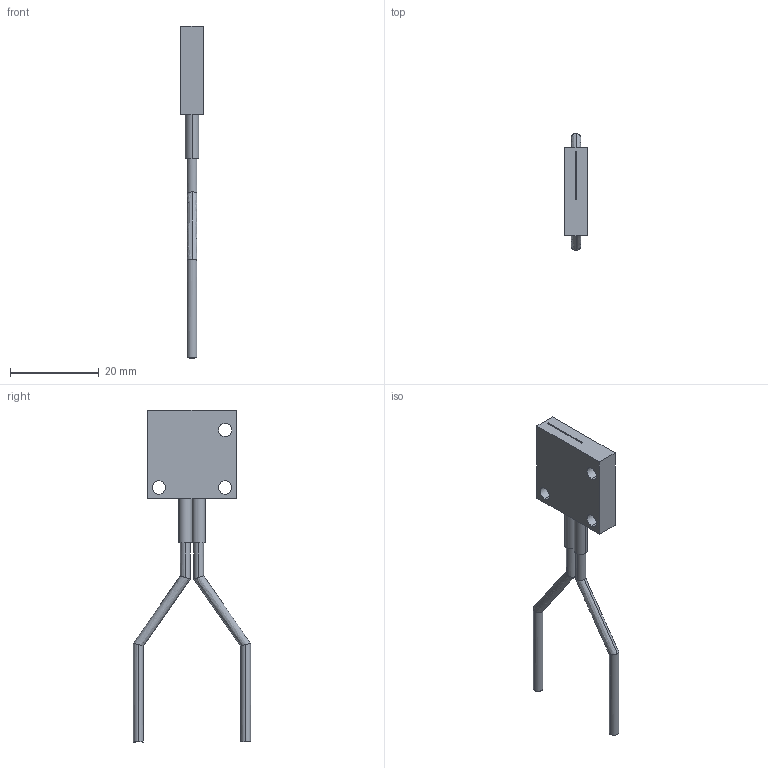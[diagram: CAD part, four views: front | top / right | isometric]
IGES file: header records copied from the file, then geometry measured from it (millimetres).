
Start section: SolidWorks IGES FILE using analytic representation for surfaces
Global section: file name: \\Intra-srv04\開発データ\CAD_Data\CAD委員会\3D電子ｶﾀﾛｸﾞ\製品カタログ（新）\0_IGES\FD-AFM2.IGS,41HSolidWorks 2004; native system: by SolidWorks Corporation; preprocessor: Version 5.3; author: YK0651; date: 050909.000920; units: millimetre
Bounding box: 5 x 26.46 x 75 mm (x, y, z)
Volume: 2402.6 mm3; surface area: 2158 mm2
Topology: 1 solids, 1 shells, 37 faces, 90 edges, 60 vertices
Faces by surface type: revolution 22, plane 15
